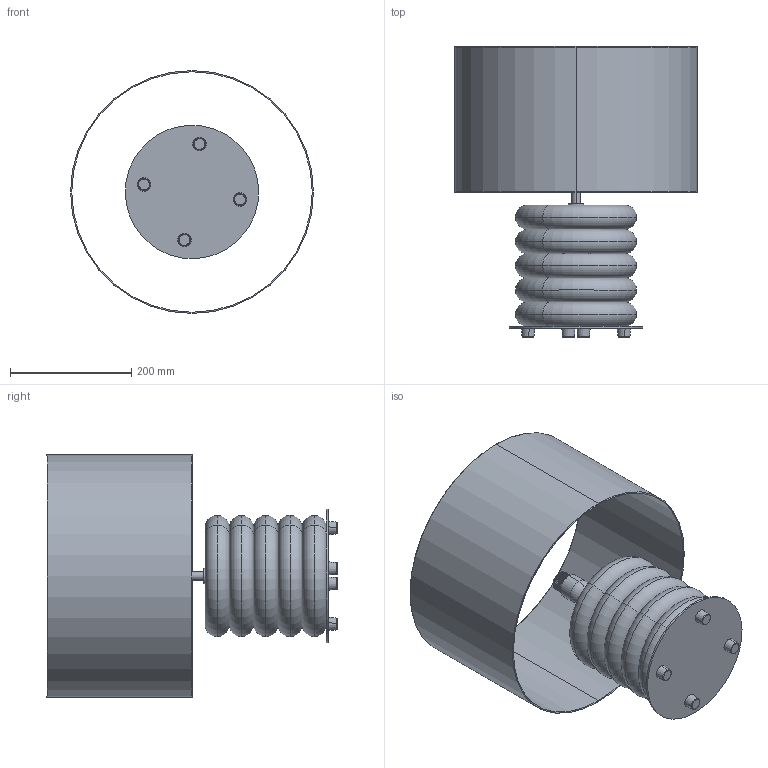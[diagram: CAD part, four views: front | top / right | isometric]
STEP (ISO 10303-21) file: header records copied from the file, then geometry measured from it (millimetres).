
FILE_DESCRIPTION (( 'STEP AP214' ), '1' );
FILE_NAME ('ONUT_NAC130.STEP', '2023-11-02T08:10:26', ( '' ), ( '' ), 'SwSTEP 2.0', 'SolidWorks 2018', '' );
FILE_SCHEMA (( 'AUTOMOTIVE_DESIGN' ));
Length unit declared in the file: millimetre
Products named in the file (11): FLOTADOR_NAC130; base abajo; pantalla; ONUT_NAC130
Assembly tree (7 placements, depth 2):
  FLOTADOR_NAC130
  base abajo
  pantalla
  FLOTADOR_NAC130
  FLOTADOR_NAC130
Bounding box: 400 x 478.99 x 400 mm (x, y, z)
Volume: 2538894.3 mm3; surface area: 1401790.2 mm2
Topology: 12 solids, 12 shells, 253 faces, 524 edges, 336 vertices
Faces by surface type: cylinder 121, plane 67, torus 54, cone 8, bspline 3
Entity records: 5468 total; most frequent: CARTESIAN_POINT 2696, DIRECTION 558, ORIENTED_EDGE 504, EDGE_CURVE 252, AXIS2_PLACEMENT_3D 246, VERTEX_POINT 160, EDGE_LOOP 130, CIRCLE 121
